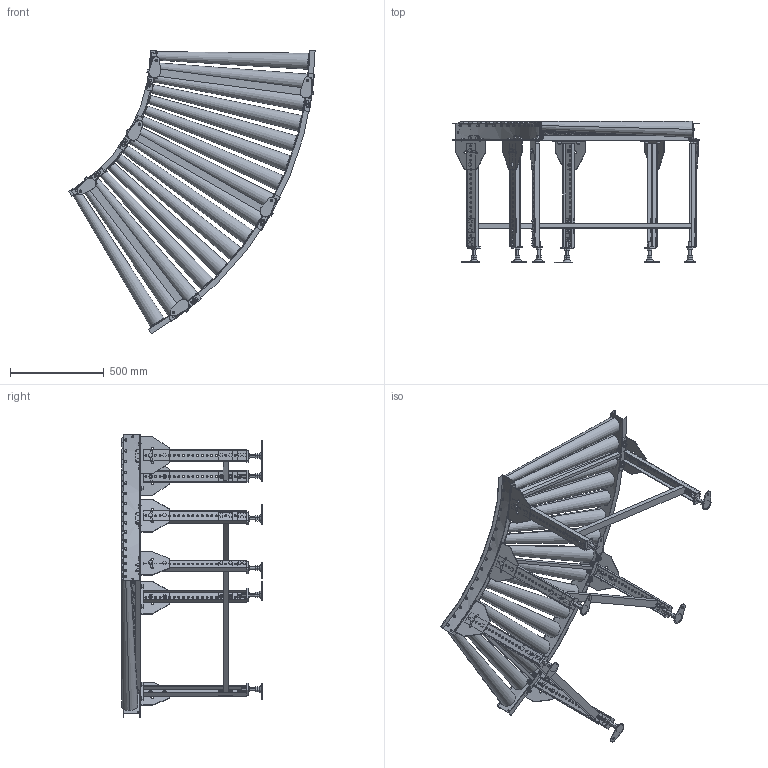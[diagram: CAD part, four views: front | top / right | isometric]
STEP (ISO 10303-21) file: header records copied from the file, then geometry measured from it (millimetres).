
FILE_DESCRIPTION (( 'STEP AP214' ), '1' );
FILE_NAME ('MRT-C9-800-75-60.STEP', '2022-09-28T01:47:55', ( '' ), ( '' ), 'SwSTEP 2.0', 'SolidWorks 2017', '' );
FILE_SCHEMA (( 'AUTOMOTIVE_DESIGN' ));
Length unit declared in the file: millimetre
Products named in the file (1): MRT-C9-800-75-60
Bounding box: 1310 x 750 x 1511.21 mm (x, y, z)
Volume: 51849404.5 mm3; surface area: 5395153.6 mm2
Topology: 28 solids, 58 shells, 3218 faces, 7716 edges, 4856 vertices
Faces by surface type: plane 2298, cylinder 876, cone 44
Entity records: 135444 total; most frequent: CARTESIAN_POINT 22766, DIRECTION 16450, ORIENTED_EDGE 15432, EDGE_CURVE 7716, AXIS2_PLACEMENT_3D 5737, LINE 4976, VECTOR 4976, VERTEX_POINT 4856
